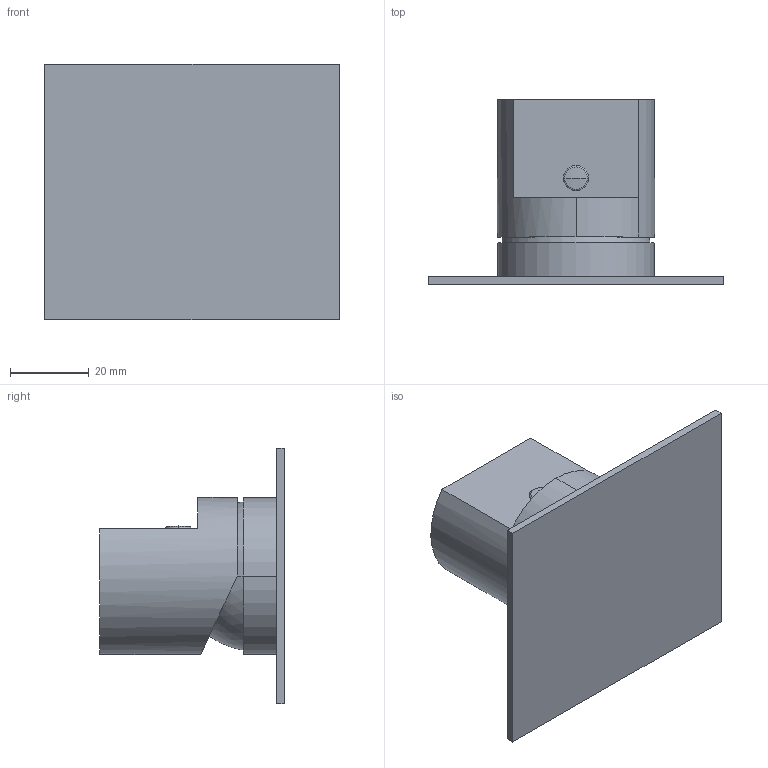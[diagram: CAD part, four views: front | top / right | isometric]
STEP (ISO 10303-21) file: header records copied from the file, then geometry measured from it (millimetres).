
FILE_DESCRIPTION((''),'2;1');
FILE_NAME('8942721_SW0001','2025-11-21T10:59:38',('carloff'),(''),'CREO PARAMETRIC BY PTC INC, 2022014','CREO PARAMETRIC BY PTC INC, 2022014','');
FILE_SCHEMA(('CONFIG_CONTROL_DESIGN'));
Length unit declared in the file: millimetre
Products named in the file (1): 8942721_SW0001
Bounding box: 75 x 47 x 65 mm (x, y, z)
Volume: 50593.6 mm3; surface area: 22129.4 mm2
Topology: 1 solids, 1 shells, 122 faces, 335 edges, 210 vertices
Faces by surface type: plane 68, cylinder 26, cone 16, torus 8, bspline 2, sphere 2
Entity records: 4033 total; most frequent: CARTESIAN_POINT 894, ORIENTED_EDGE 658, DIRECTION 646, EDGE_CURVE 329, AXIS2_PLACEMENT_3D 225, VERTEX_POINT 210, VECTOR 196, LINE 196
